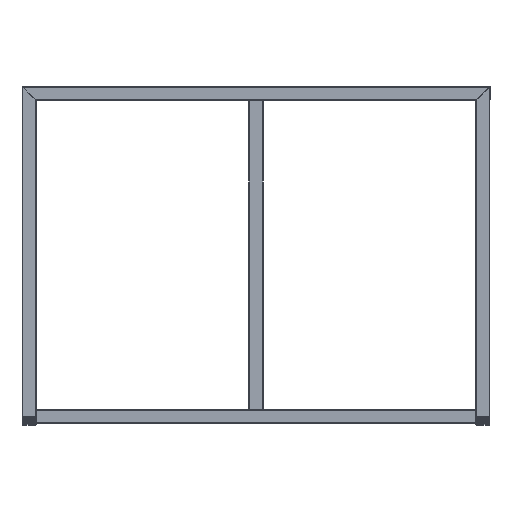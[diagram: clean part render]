
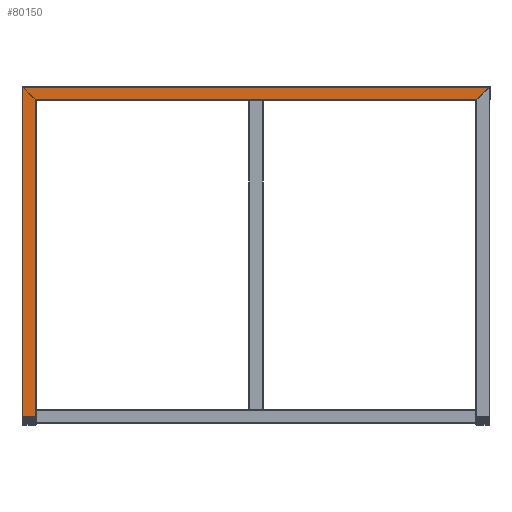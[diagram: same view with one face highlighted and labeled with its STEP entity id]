
A CAD part, left-side view. The second image highlights one B-rep face of the part: STEP entity #80150.
In plain terms, the highlighted planar face has unit normal (-1, 0, 0) by its records, which use the part's own axes.
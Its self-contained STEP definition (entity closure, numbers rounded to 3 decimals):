
#2402=FACE_OUTER_BOUND('',#6679,.T.);
#6679=EDGE_LOOP('',(#60258,#60259,#60260,#60261,#60262,#60263));
#11698=LINE('',#112163,#22816);
#14744=LINE('',#118067,#25862);
#14787=LINE('',#118153,#25905);
#14809=LINE('',#118190,#25927);
#14968=LINE('',#118490,#26086);
#14970=LINE('',#118494,#26088);
#22816=VECTOR('',#91398,10.);
#25862=VECTOR('',#96806,10.);
#25905=VECTOR('',#96889,10.);
#25927=VECTOR('',#96925,10.);
#26086=VECTOR('',#97320,10.);
#26088=VECTOR('',#97326,10.);
#33050=VERTEX_POINT('',#112160);
#33051=VERTEX_POINT('',#112162);
#34727=VERTEX_POINT('',#118065);
#34728=VERTEX_POINT('',#118066);
#34750=VERTEX_POINT('',#118151);
#34751=VERTEX_POINT('',#118152);
#40687=EDGE_CURVE('',#33051,#33050,#11698,.T.);
#43733=EDGE_CURVE('',#34727,#34728,#14744,.T.);
#43776=EDGE_CURVE('',#34750,#34751,#14787,.T.);
#43798=EDGE_CURVE('',#34751,#34728,#14809,.T.);
#43957=EDGE_CURVE('',#34750,#33051,#14968,.T.);
#43959=EDGE_CURVE('',#34727,#33050,#14970,.T.);
#60258=ORIENTED_EDGE('',*,*,#43957,.T.);
#60259=ORIENTED_EDGE('',*,*,#40687,.T.);
#60260=ORIENTED_EDGE('',*,*,#43959,.F.);
#60261=ORIENTED_EDGE('',*,*,#43733,.T.);
#60262=ORIENTED_EDGE('',*,*,#43798,.F.);
#60263=ORIENTED_EDGE('',*,*,#43776,.F.);
#71758=PLANE('',#84466);
#80150=ADVANCED_FACE('',(#2402),#71758,.T.);
#84466=AXIS2_PLACEMENT_3D('',#118493,#97324,#97325);
#91398=DIRECTION('',(0.,-1.,0.));
#96806=DIRECTION('',(0.,-1.,0.));
#96889=DIRECTION('',(0.,-1.,0.));
#96925=DIRECTION('',(0.,0.707,-0.707));
#97320=DIRECTION('',(0.,0.,-1.));
#97324=DIRECTION('center_axis',(-1.,0.,0.));
#97325=DIRECTION('ref_axis',(0.,0.,1.));
#97326=DIRECTION('',(0.,0.,-1.));
#112160=CARTESIAN_POINT('',(-1250.,472.,4.));
#112162=CARTESIAN_POINT('',(-1250.,498.,4.));
#112163=CARTESIAN_POINT('',(-1250.,498.,4.));
#118065=CARTESIAN_POINT('',(-1250.,472.,696.));
#118066=CARTESIAN_POINT('',(-1250.,-472.,696.));
#118067=CARTESIAN_POINT('',(-1250.,472.,696.));
#118151=CARTESIAN_POINT('',(-1250.,498.,722.));
#118152=CARTESIAN_POINT('',(-1250.,-498.,722.));
#118153=CARTESIAN_POINT('',(-1250.,498.,722.));
#118190=CARTESIAN_POINT('',(-1250.,-498.,722.));
#118490=CARTESIAN_POINT('',(-1250.,498.,722.));
#118493=CARTESIAN_POINT('Origin',(-1250.,485.23,359.192));
#118494=CARTESIAN_POINT('',(-1250.,472.,696.));
